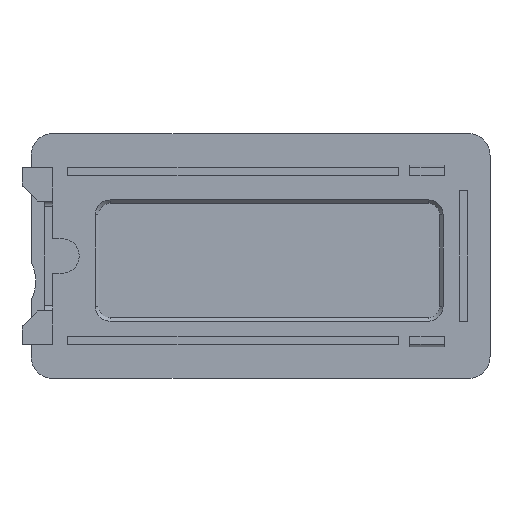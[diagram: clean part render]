
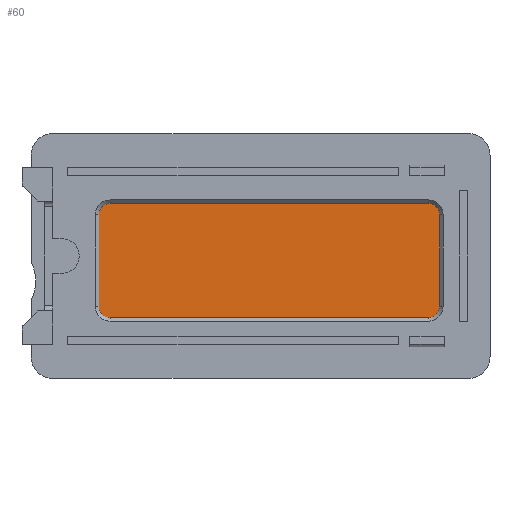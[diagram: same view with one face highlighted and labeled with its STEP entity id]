
A CAD part, front view. The second image highlights one B-rep face of the part: STEP entity #60.
In plain terms, the highlighted planar face has unit normal (0, -1, 0).
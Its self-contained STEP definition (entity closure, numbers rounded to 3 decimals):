
#60=ADVANCED_FACE('',(#314),#313,.F.);
#313=PLANE('',#993);
#314=FACE_OUTER_BOUND('',#994,.T.);
#990=CARTESIAN_POINT('',(-37.18,-0.7,-6.4));
#991=DIRECTION('',(0.,1.,0.));
#992=DIRECTION('',(0.,0.,1.));
#993=AXIS2_PLACEMENT_3D('',#990,#991,#992);
#994=EDGE_LOOP('',(#1346,#1347,#1348,#1349,#1350,#1351,#1352,#1353));
#1346=ORIENTED_EDGE('',*,*,#1699,.F.);
#1347=ORIENTED_EDGE('',*,*,#1693,.T.);
#1348=ORIENTED_EDGE('',*,*,#1695,.F.);
#1349=ORIENTED_EDGE('',*,*,#1701,.T.);
#1350=ORIENTED_EDGE('',*,*,#1707,.F.);
#1351=ORIENTED_EDGE('',*,*,#1713,.T.);
#1352=ORIENTED_EDGE('',*,*,#1711,.F.);
#1353=ORIENTED_EDGE('',*,*,#1705,.T.);
#1693=EDGE_CURVE('',#2138,#2153,#2160,.T.);
#1695=EDGE_CURVE('',#2167,#2153,#2174,.T.);
#1699=EDGE_CURVE('',#2138,#2186,#2200,.T.);
#1701=EDGE_CURVE('',#2167,#2207,#2214,.T.);
#1705=EDGE_CURVE('',#2226,#2186,#2240,.T.);
#1707=EDGE_CURVE('',#2247,#2207,#2254,.T.);
#1711=EDGE_CURVE('',#2226,#2266,#2280,.T.);
#1713=EDGE_CURVE('',#2247,#2266,#2292,.T.);
#2138=VERTEX_POINT('',#3298);
#2153=VERTEX_POINT('',#3308);
#2160=CIRCLE('',#3315,1.);
#2167=VERTEX_POINT('',#3317);
#2174=LINE('',#3321,#3322);
#2186=VERTEX_POINT('',#3327);
#2200=LINE('',#3335,#3336);
#2207=VERTEX_POINT('',#3339);
#2214=CIRCLE('',#3346,1.);
#2226=VERTEX_POINT('',#3351);
#2240=CIRCLE('',#3363,1.);
#2247=VERTEX_POINT('',#3365);
#2254=LINE('',#3369,#3370);
#2266=VERTEX_POINT('',#3375);
#2280=LINE('',#3383,#3384);
#2292=CIRCLE('',#3393,1.);
#3298=CARTESIAN_POINT('',(-34.2,-0.7,-4.4));
#3308=CARTESIAN_POINT('',(-33.2,-0.7,-5.4));
#3312=CARTESIAN_POINT('',(-33.2,-0.7,-4.4));
#3313=DIRECTION('',(0.,-1.,0.));
#3314=DIRECTION('',(0.,0.,-1.));
#3315=AXIS2_PLACEMENT_3D('',#3312,#3313,#3314);
#3317=CARTESIAN_POINT('',(-5.4,-0.7,-5.4));
#3321=CARTESIAN_POINT('',(-5.4,-0.7,-5.4));
#3322=VECTOR('',#3323,27.8);
#3323=DIRECTION('',(-1.,0.,0.));
#3327=CARTESIAN_POINT('',(-34.2,-0.7,3.6));
#3335=CARTESIAN_POINT('',(-34.2,-0.7,-4.4));
#3336=VECTOR('',#3337,8.);
#3337=DIRECTION('',(0.,0.,1.));
#3339=CARTESIAN_POINT('',(-4.4,-0.7,-4.4));
#3343=CARTESIAN_POINT('',(-5.4,-0.7,-4.4));
#3344=DIRECTION('',(0.,-1.,0.));
#3345=DIRECTION('',(0.,0.,-1.));
#3346=AXIS2_PLACEMENT_3D('',#3343,#3344,#3345);
#3351=CARTESIAN_POINT('',(-33.2,-0.7,4.6));
#3360=CARTESIAN_POINT('',(-33.2,-0.7,3.6));
#3361=DIRECTION('',(0.,-1.,0.));
#3362=DIRECTION('',(0.,0.,-1.));
#3363=AXIS2_PLACEMENT_3D('',#3360,#3361,#3362);
#3365=CARTESIAN_POINT('',(-4.4,-0.7,3.6));
#3369=CARTESIAN_POINT('',(-4.4,-0.7,3.6));
#3370=VECTOR('',#3371,8.);
#3371=DIRECTION('',(0.,0.,-1.));
#3375=CARTESIAN_POINT('',(-5.4,-0.7,4.6));
#3383=CARTESIAN_POINT('',(-33.2,-0.7,4.6));
#3384=VECTOR('',#3385,27.8);
#3385=DIRECTION('',(1.,0.,0.));
#3390=CARTESIAN_POINT('',(-5.4,-0.7,3.6));
#3391=DIRECTION('',(0.,-1.,0.));
#3392=DIRECTION('',(0.,0.,-1.));
#3393=AXIS2_PLACEMENT_3D('',#3390,#3391,#3392);
